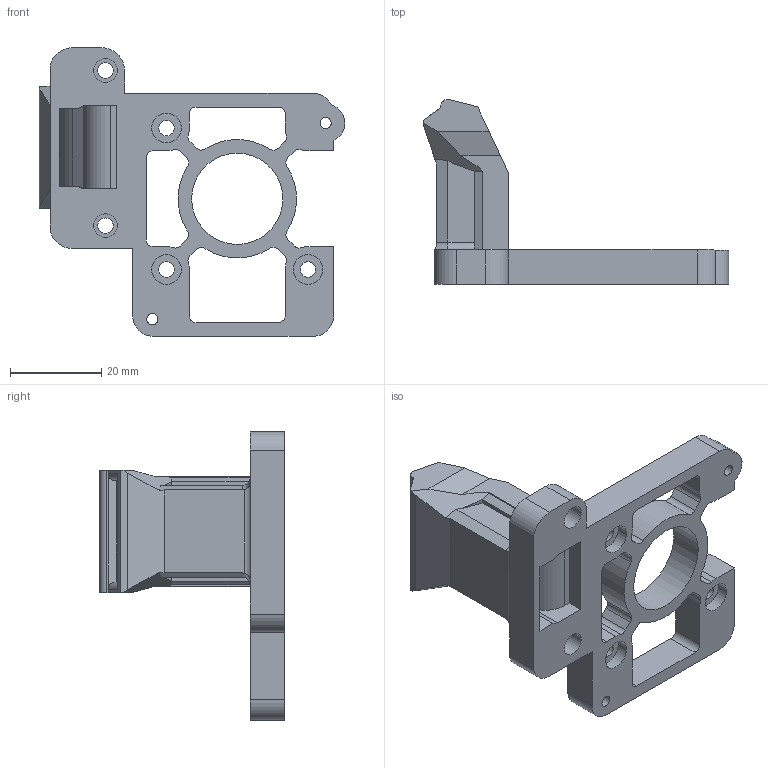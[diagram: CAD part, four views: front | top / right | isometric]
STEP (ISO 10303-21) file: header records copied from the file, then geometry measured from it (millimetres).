
FILE_DESCRIPTION(/* description */ (''),/* implementation_level */ '2;1');
FILE_NAME(/* name */ 'C:/Users/jwmue/3D Objects/RCii/RCii Fan Shroud 2.step',/* time_stamp */ '2021-01-04T13:22:46-06:00',/* author */ (''),/* organization */ (''),/* preprocessor_version */ 'ST-DEVELOPER v18.1',/* originating_system */ 'Autodesk Translation Framework v9.7.1.1290',/* authorisation */ '');
FILE_SCHEMA (('AUTOMOTIVE_DESIGN { 1 0 10303 214 3 1 1 }'));
Length unit declared in the file: millimetre
Products named in the file (1): RCii Fan Shroud 2
Bounding box: 66.96 x 40.51 x 63.23 mm (x, y, z)
Volume: 17839 mm3; surface area: 12944.5 mm2
Topology: 1 solids, 1 shells, 178 faces, 495 edges, 323 vertices
Faces by surface type: plane 104, cylinder 68, bspline 4, cone 2
Full cylindrical faces by diameter (mm): 2.459 x2, 3.4 x5, 5.2 x2, 6.5 x3, 20 x1
Entity records: 5977 total; most frequent: CARTESIAN_POINT 1231, ORIENTED_EDGE 990, DIRECTION 977, EDGE_CURVE 495, LINE 335, VECTOR 335, VERTEX_POINT 323, AXIS2_PLACEMENT_3D 321
